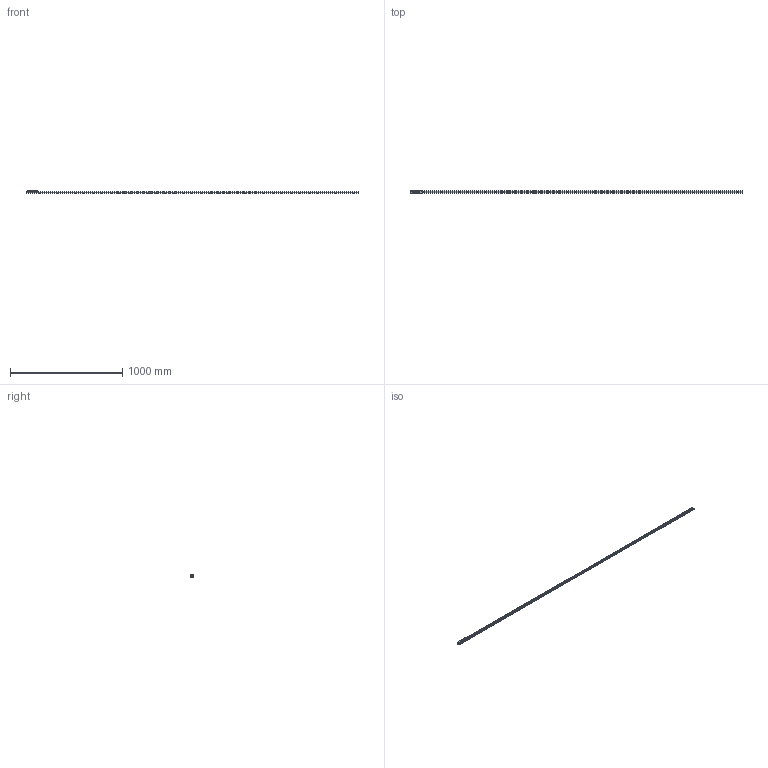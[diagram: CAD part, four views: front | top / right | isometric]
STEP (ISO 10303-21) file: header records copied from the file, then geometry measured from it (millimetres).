
FILE_DESCRIPTION( ( 'STEP AP214' ), '1' );
FILE_NAME( 'p:/temp/worker_22/temp/exporttempdir_5640_292_nnCqe/format_0/TEN26-2960-CEN26-92.stp', '2020-05-08T18:54:22', ( 'License CC BY-ND 4.0' ), ( 'CADENAS' ), ' ', 'PARTsolutions', ' ' );
FILE_SCHEMA( ( 'AUTOMOTIVE_DESIGN { 1 0 10303 214 1 1 1 1 }' ) );
Length unit declared in the file: millimetre
Products named in the file (6): TEN26-2960-CEN26-92; _TEN 26-2960; _CEN26-92_1; _RLN26(11.2_M5); _RLA26(11.2_M5); _LAN-26
Assembly tree (8 placements, depth 2):
  TEN26-2960-CEN26-92
    _TEN 26-2960
    _CEN26-92_1
    _RLN26(11.2_M5)  x2
    _RLA26(11.2_M5)
    _LAN-26  x3
Bounding box: 2960 x 26 x 22 mm (x, y, z)
Volume: 318878.6 mm3; surface area: 270448.5 mm2
Topology: 8 solids, 8 shells, 270 faces, 612 edges, 385 vertices
Faces by surface type: plane 131, cylinder 106, cone 24, bspline 9
Full cylindrical faces by diameter (mm): 2.5 x2, 4.134 x5, 4.5 x3, 5 x6, 6.5 x37, 9.3 x3, 11.2 x6, 11.6 x6, 15.7 x6, 16.7 x6
Entity records: 6812 total; most frequent: CARTESIAN_POINT 970, DIRECTION 934, ORIENTED_EDGE 682, AXIS2_PLACEMENT_3D 403, EDGE_LOOP 380, EDGE_CURVE 341, VERTEX_POINT 271, FACE_OUTER_BOUND 258
